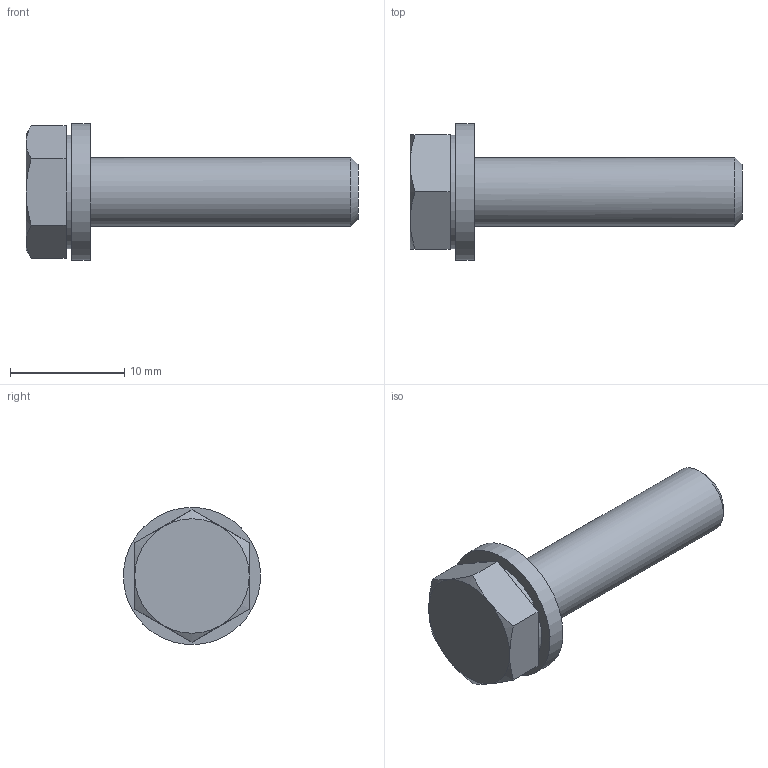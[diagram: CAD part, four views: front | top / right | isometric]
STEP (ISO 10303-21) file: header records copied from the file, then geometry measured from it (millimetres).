
FILE_DESCRIPTION((''),'2;1');
FILE_NAME('W:\13785_CF_Global_Fit_Umsetzung\205_Hexagon_Bolts_without_Nuts\M213-412.stp','2010-09-01T15:18:35',('KAA'),(''),'Autodesk Inventor 2011','Autodesk Inventor 2011','');
FILE_SCHEMA(('AUTOMOTIVE_DESIGN { 1 0 10303 214 1 1 1 1 }'));
Length unit declared in the file: millimetre
Products named in the file (1): 213-412
Bounding box: 29 x 11.97 x 11.97 mm (x, y, z)
Volume: 1175.3 mm3; surface area: 926.5 mm2
Topology: 1 solids, 1 shells, 18 faces, 38 edges, 25 vertices
Faces by surface type: plane 11, cylinder 4, cone 2, torus 1
Full cylindrical faces by diameter (mm): 6 x1, 6.4 x1, 9.9 x1, 12 x1
Entity records: 471 total; most frequent: CARTESIAN_POINT 81, DIRECTION 70, ORIENTED_EDGE 56, AXIS2_PLACEMENT_3D 29, EDGE_CURVE 28, EDGE_LOOP 28, VERTEX_POINT 22, STYLED_ITEM 19
